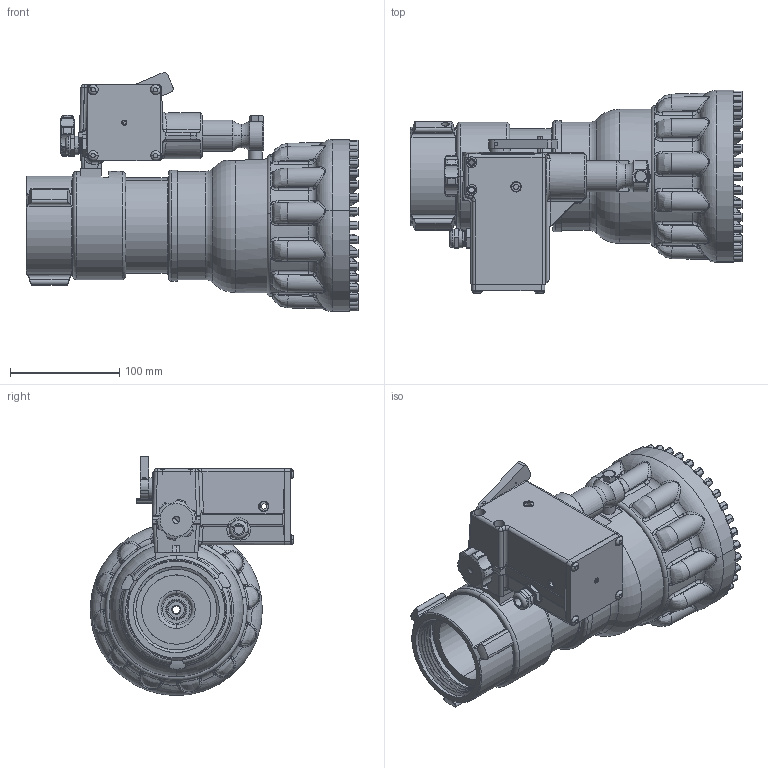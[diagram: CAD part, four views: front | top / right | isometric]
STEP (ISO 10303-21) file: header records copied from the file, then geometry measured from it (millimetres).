
FILE_DESCRIPTION (( 'STEP AP203' ), '1' );
FILE_NAME ('M-ER1250S-NJ.step', '2014-05-13T19:37:09', ( 'user' ), ( '' ), 'SwSTEP 2.0', 'SolidWorks 2012', '' );
FILE_SCHEMA (( 'CONFIG_CONTROL_DESIGN' ));
Products named in the file (1): M-ER1250S-NJ
Bounding box: 303.99 x 186.21 x 218.96 mm (x, y, z)
Surface area: 307234.9 mm2 (no closed solid volume)
Topology: 0 solids, 38 shells, 1296 faces, 3819 edges, 2481 vertices
Faces by surface type: cylinder 506, plane 406, bspline 257, torus 83, cone 35, sphere 9
Entity records: 70450 total; most frequent: CARTESIAN_POINT 39620, ORIENTED_EDGE 6996, DIRECTION 5371, EDGE_CURVE 3819, VERTEX_POINT 2481, AXIS2_PLACEMENT_3D 2003, LINE 1365, VECTOR 1365
